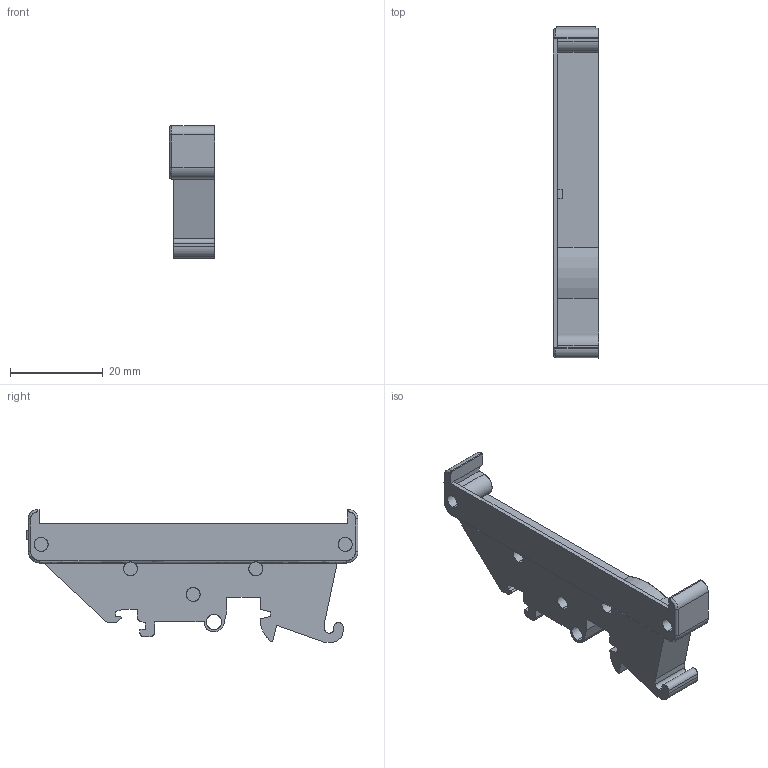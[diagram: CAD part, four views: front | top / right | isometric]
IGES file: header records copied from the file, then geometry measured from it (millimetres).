
Start section: SolidWorks IGES file using analytic representation for surfaces
Global section: file name: D:\X - Arquivos\PROEX\Empresas\P11 - METALTEX\01 - Produtos\IGES\7ª remessa\2ª etapa\SP7-F.IGS; native system: SolidWorks 2012; preprocessor: SolidWorks 2012; author: Usuario; date: 190912.135518; units: millimetre
Bounding box: 9.7 x 71.5 x 28.6 mm (x, y, z)
Surface area: 5439.1 mm2 (no closed solid volume)
Topology: 0 solids, 0 shells, 226 faces, 2244 edges, 2244 vertices
Faces by surface type: bspline 171, revolution 55
